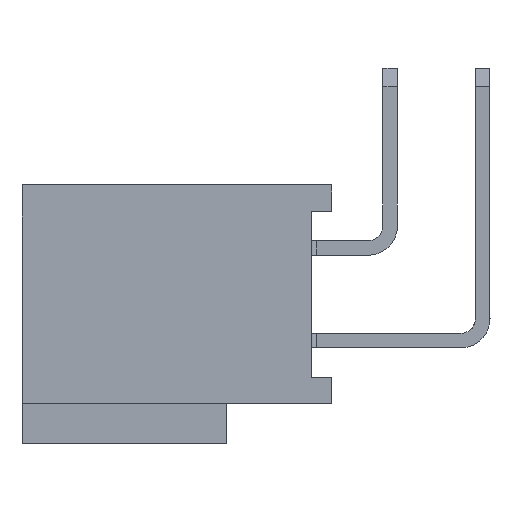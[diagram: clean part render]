
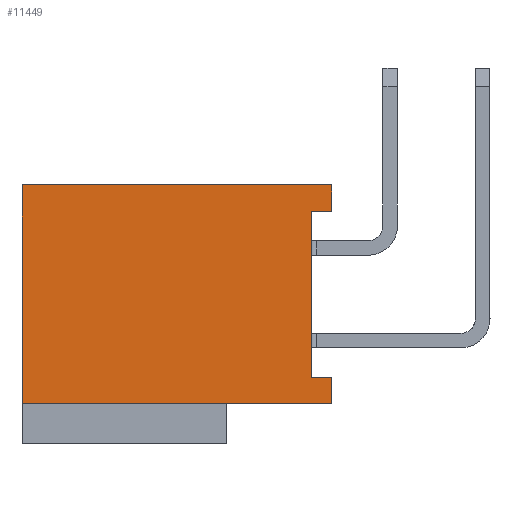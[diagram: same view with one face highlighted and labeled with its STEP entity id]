
A CAD part, left-side view. The second image highlights one B-rep face of the part: STEP entity #11449.
In plain terms, the highlighted planar face has unit normal (-1, 0, 0).
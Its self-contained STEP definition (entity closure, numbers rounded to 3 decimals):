
#6 = EDGE_CURVE ( 'NONE', #19293, #22680, #14872, .T. ) ;
#111 = VECTOR ( 'NONE', #2154, 1000. ) ;
#781 = LINE ( 'NONE', #18825, #7204 ) ;
#1279 = CARTESIAN_POINT ( 'NONE',  ( -87.561, 0., 3. ) ) ;
#2154 = DIRECTION ( 'NONE',  ( 0., 0., -1. ) ) ;
#2359 = EDGE_CURVE ( 'NONE', #4710, #6813, #18081, .T. ) ;
#2885 = CARTESIAN_POINT ( 'NONE',  ( -87.561, 0., 6. ) ) ;
#3385 = LINE ( 'NONE', #17398, #26087 ) ;
#4209 = VERTEX_POINT ( 'NONE', #20611 ) ;
#4710 = VERTEX_POINT ( 'NONE', #16178 ) ;
#4959 = VECTOR ( 'NONE', #7864, 1000. ) ;
#5330 = LINE ( 'NONE', #7430, #12805 ) ;
#5599 = ORIENTED_EDGE ( 'NONE', *, *, #7688, .T. ) ;
#6294 = CARTESIAN_POINT ( 'NONE',  ( -87.561, 8.496, 6. ) ) ;
#6704 = CARTESIAN_POINT ( 'NONE',  ( -87.561, 0., 0. ) ) ;
#6813 = VERTEX_POINT ( 'NONE', #11964 ) ;
#7204 = VECTOR ( 'NONE', #8037, 1000. ) ;
#7254 = VERTEX_POINT ( 'NONE', #26700 ) ;
#7338 = DIRECTION ( 'NONE',  ( 0., -1., 0. ) ) ;
#7430 = CARTESIAN_POINT ( 'NONE',  ( -87.561, 4.248, 6. ) ) ;
#7513 = ORIENTED_EDGE ( 'NONE', *, *, #12768, .F. ) ;
#7688 = EDGE_CURVE ( 'NONE', #6813, #22680, #10344, .T. ) ;
#7808 = CARTESIAN_POINT ( 'NONE',  ( -87.561, 0.57, 5.275 ) ) ;
#7864 = DIRECTION ( 'NONE',  ( 0., 0., -1. ) ) ;
#8037 = DIRECTION ( 'NONE',  ( 0., 0., 1. ) ) ;
#8215 = CARTESIAN_POINT ( 'NONE',  ( -87.561, 0., 0.725 ) ) ;
#10028 = CARTESIAN_POINT ( 'NONE',  ( -87.561, 0.57, 0.725 ) ) ;
#10344 = LINE ( 'NONE', #11141, #25220 ) ;
#10443 = VECTOR ( 'NONE', #14340, 1000. ) ;
#10660 = DIRECTION ( 'NONE',  ( 0., 1., 0. ) ) ;
#10920 = VECTOR ( 'NONE', #20194, 1000. ) ;
#11141 = CARTESIAN_POINT ( 'NONE',  ( -87.561, 4.25, 0. ) ) ;
#11280 = EDGE_CURVE ( 'NONE', #19293, #7254, #3385, .T. ) ;
#11449 = ADVANCED_FACE ( 'NONE', ( #27086 ), #19928, .F. ) ;
#11964 = CARTESIAN_POINT ( 'NONE',  ( -87.561, 8.496, 0. ) ) ;
#12768 = EDGE_CURVE ( 'NONE', #4710, #13857, #5330, .T. ) ;
#12805 = VECTOR ( 'NONE', #7338, 1000. ) ;
#13155 = CARTESIAN_POINT ( 'NONE',  ( -87.561, 0., 6. ) ) ;
#13857 = VERTEX_POINT ( 'NONE', #2885 ) ;
#14340 = DIRECTION ( 'NONE',  ( 0., 0., -1. ) ) ;
#14814 = EDGE_CURVE ( 'NONE', #4209, #13857, #781, .T. ) ;
#14872 = LINE ( 'NONE', #1279, #10443 ) ;
#15416 = DIRECTION ( 'NONE',  ( 1., 0., 0. ) ) ;
#15436 = VERTEX_POINT ( 'NONE', #7808 ) ;
#15701 = DIRECTION ( 'NONE',  ( 0., 0., -1. ) ) ;
#16178 = CARTESIAN_POINT ( 'NONE',  ( -87.561, 8.496, 6. ) ) ;
#16489 = LINE ( 'NONE', #10028, #4959 ) ;
#17398 = CARTESIAN_POINT ( 'NONE',  ( -87.561, 0.287, 0.725 ) ) ;
#17441 = EDGE_LOOP ( 'NONE', ( #17865, #27823, #7513, #20154, #5599, #26529, #20671, #24253 ) ) ;
#17865 = ORIENTED_EDGE ( 'NONE', *, *, #21309, .T. ) ;
#18081 = LINE ( 'NONE', #6294, #111 ) ;
#18825 = CARTESIAN_POINT ( 'NONE',  ( -87.561, 0., 5.638 ) ) ;
#19293 = VERTEX_POINT ( 'NONE', #8215 ) ;
#19822 = CARTESIAN_POINT ( 'NONE',  ( -87.561, 0.287, 5.275 ) ) ;
#19928 = PLANE ( 'NONE',  #21923 ) ;
#20154 = ORIENTED_EDGE ( 'NONE', *, *, #2359, .T. ) ;
#20194 = DIRECTION ( 'NONE',  ( 0., -1., 0. ) ) ;
#20611 = CARTESIAN_POINT ( 'NONE',  ( -87.561, 0., 5.275 ) ) ;
#20671 = ORIENTED_EDGE ( 'NONE', *, *, #11280, .T. ) ;
#21309 = EDGE_CURVE ( 'NONE', #15436, #4209, #22112, .T. ) ;
#21923 = AXIS2_PLACEMENT_3D ( 'NONE', #13155, #15416, #15701 ) ;
#22112 = LINE ( 'NONE', #19822, #10920 ) ;
#22680 = VERTEX_POINT ( 'NONE', #6704 ) ;
#24253 = ORIENTED_EDGE ( 'NONE', *, *, #27208, .F. ) ;
#24488 = DIRECTION ( 'NONE',  ( 0., -1., 0. ) ) ;
#25220 = VECTOR ( 'NONE', #24488, 1000. ) ;
#26087 = VECTOR ( 'NONE', #10660, 1000. ) ;
#26529 = ORIENTED_EDGE ( 'NONE', *, *, #6, .F. ) ;
#26700 = CARTESIAN_POINT ( 'NONE',  ( -87.561, 0.57, 0.725 ) ) ;
#27086 = FACE_OUTER_BOUND ( 'NONE', #17441, .T. ) ;
#27208 = EDGE_CURVE ( 'NONE', #15436, #7254, #16489, .T. ) ;
#27823 = ORIENTED_EDGE ( 'NONE', *, *, #14814, .T. ) ;
